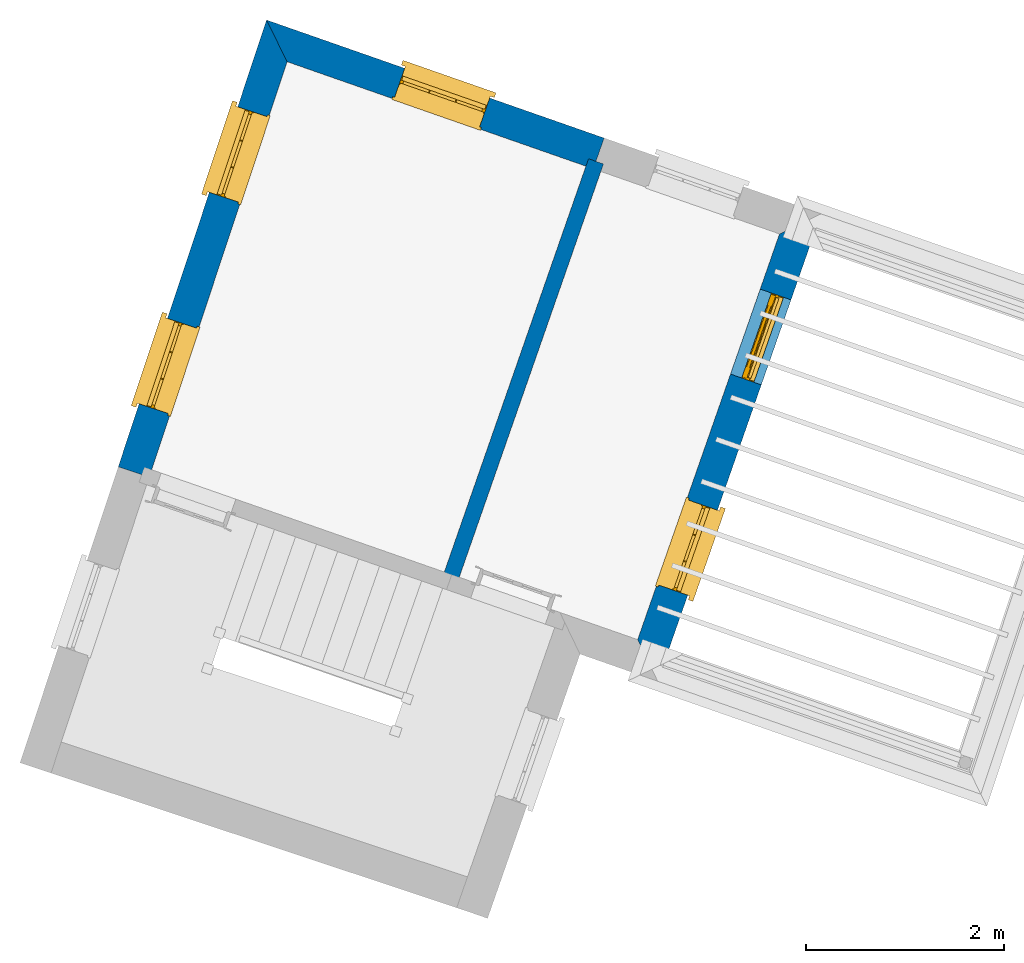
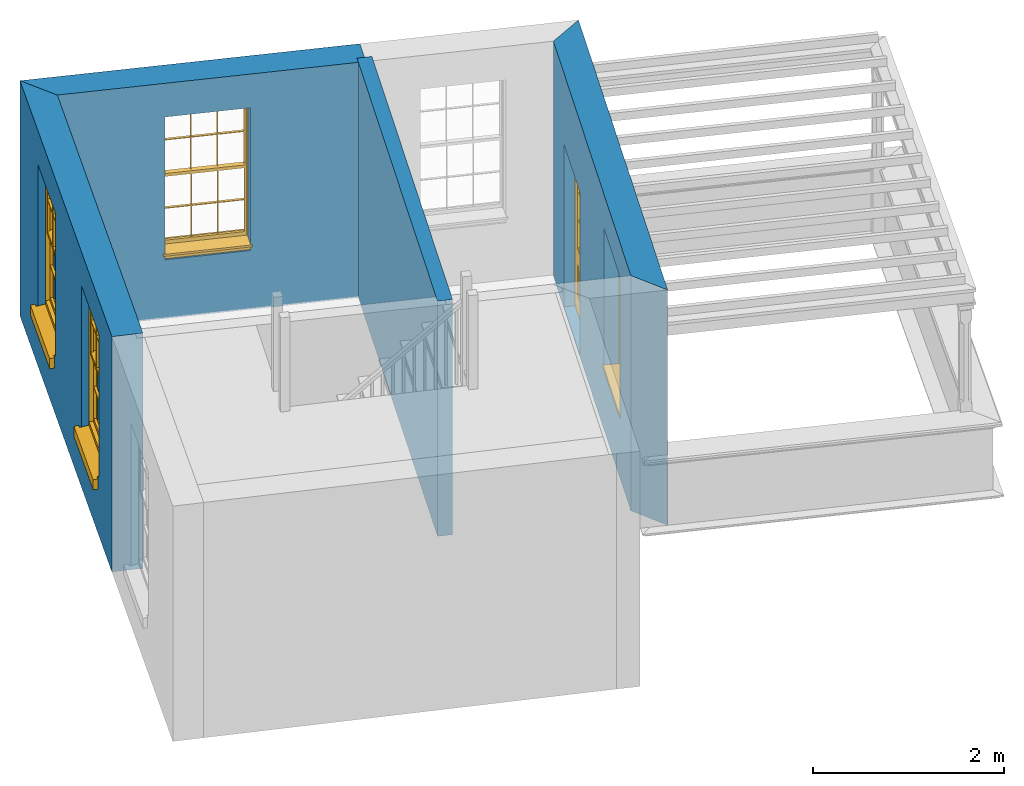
# One storey, part 4 of 6: 4 walls, 4 windows, 1 door, 5 openings.
"""IFC4 building model written with IfcOpenShell, lengths in metres."""

from ifc_helpers import new_model, si_unit, frame, origin, origin_with_axes, place, context, subcontext, project, spatial, polyline, outline, extrude, faceted_brep, source, transform, mapped, material, layer, layer_set, layer_usage, type_object, type_shapes, element, fill, save


model = new_model("IFC4")

# Units and contexts
model_context = context("Model", 3, world=origin_with_axes())
body_context = subcontext(model_context, "Body", "Model", "MODEL_VIEW")
ifc_project = project(units=[si_unit("PLANEANGLEUNIT", "RADIAN"), si_unit("MASSUNIT", "GRAM", prefix="KILO"), si_unit("FORCEUNIT", "NEWTON", prefix="KILO"), si_unit("LENGTHUNIT", "METRE"), si_unit("AREAUNIT", "SQUARE_METRE"), si_unit("VOLUMEUNIT", "CUBIC_METRE")], contexts=[model_context, model_context])

# Sites, building, storey
site_1_placement = place(None, origin_with_axes())
site_1 = spatial("IfcSite", under=ifc_project, at=site_1_placement, Name="Tamar")
site_2_placement = place(site_1_placement, origin_with_axes())
site_2 = spatial("IfcSite", under=site_1, at=site_2_placement, Name="Site plot-15", CompositionType="ELEMENT")
building_placement = place(None, origin_with_axes())
building = spatial("IfcBuilding", under=site_2, at=building_placement, Name="Building plot-15", CompositionType="ELEMENT")
storey_placement = place(None, frame((0.0, 0.0, 29.95), z_axis=(0.0, 0.0, 1.0), x_axis=(1.0, 0.0, 0.0)))
storey = spatial("IfcBuildingStorey", under=building, at=storey_placement, Name="plot-15 1", CompositionType="ELEMENT", Elevation=29.95)

# Wall, openings, door, window
ifc_material_1 = material(Name="Masonry")
ifc_layer_1 = layer(ifc_material_1, 0.33, ventilated=False)
ifc_layer_set_1 = layer_set([ifc_layer_1], Name="exterior_0.08_0.25")
ifc_layer_usage_1 = layer_usage(ifc_layer_set_1, "AXIS2", "POSITIVE", -0.25)
wall_type_1 = type_object("IfcWallType", Name="exterior_0.08_0.25", PredefinedType="SOLIDWALL", material=ifc_layer_set_1)
wall_1_placement = place(storey_placement, frame((262.294440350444, 304.974868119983, 0.0), z_axis=(0.0, 0.0, 1.0), x_axis=(0.330001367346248, 0.943980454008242, 0.0)))
wall_1 = element("IfcWall", 1, at=wall_1_placement, inside=storey, type_object=wall_type_1, material=ifc_layer_usage_1, Name="exterior", context=body_context, shape_type="SweptSolid", body=[
    extrude(outline(polyline([(0.07999999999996, 0.0799999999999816), (-0.249999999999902, -0.249999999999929), (4.75413660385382, -0.249999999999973), (4.42413660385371, 0.0799999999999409), (0.07999999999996, 0.0799999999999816)])), origin_with_axes(), (0.0, 0.0, 1.0), 3.0),
])
opening_1_placement = place(wall_1_placement, frame((0.671034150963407, 0.0, 0.75)))
opening_1 = element("IfcOpeningElement", 2, at=opening_1_placement, cuts=wall_1, Name="My Opening", ObjectType="Opening", context=body_context, shape_type="SweptSolid", body=[
    extrude(outline(polyline([(0.0, -0.269999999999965), (0.910000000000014, -0.26999999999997), (0.91000000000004, 1.10000000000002), (2.67563748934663e-14, 1.10000000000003), (0.0, -0.269999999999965)])), origin_with_axes(), (0.0, 0.0, 1.0), 1.82),
])
opening_2_placement = place(wall_1_placement, frame((2.92310245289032, 0.0, 0.0199999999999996)))
opening_2 = element("IfcOpeningElement", 3, at=opening_2_placement, cuts=wall_1, Name="My Opening", ObjectType="Opening", context=body_context, shape_type="SweptSolid", body=[
    extrude(outline(polyline([(0.0, -0.269999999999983), (0.910000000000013, -0.269999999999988), (0.91000000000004, 1.10000000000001), (2.66453525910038e-14, 1.10000000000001), (0.0, -0.269999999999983)])), origin_with_axes(), (0.0, 0.0, 1.0), 2.08),
])
door_type = type_object("IfcDoorType", Name="door_panelled", OperationType="SINGLE_SWING_LEFT", PredefinedType="NOTDEFINED")
shared_shape_1 = source(origin(), body_context, "Body", "Brep", [
    faceted_brep([(0.545, 0.195, 0.265), (0.745, 0.195, 0.265), (0.745, 0.2, 0.265), (0.545, 0.2, 0.265), (0.745, 0.2, 0.58), (0.545, 0.2, 0.58), (0.545, 0.195, 0.58), (0.515, 0.19, 0.235), (0.775, 0.19, 0.235), (0.745, 0.195, 0.58), (0.515, 0.19, 0.61), (0.515, 0.185, 0.235), (0.775, 0.185, 0.235), (0.775, 0.19, 0.61), (0.515, 0.185, 0.61), (0.785, 0.185, 0.225), (0.505, 0.185, 0.225), (0.775, 0.185, 0.61), (0.505, 0.185, 0.62), (0.785, 0.185, 0.62), (0.505, 0.18, 0.225), (0.785, 0.18, 0.225), (0.505, 0.18, 0.62), (0.785, 0.18, 0.62), (0.883, 0.18, 0.075), (0.898, 0.18, 0.075), (0.405, 0.18, 0.62), (0.405, 0.18, 0.225), (0.027, 0.18, 0.075), (0.785, 0.18, 0.82), (0.125, 0.18, 0.82), (0.405, 0.185, 0.62), (0.405, 0.185, 0.225), (0.898, 0.18, 2.068), (0.027, 0.17, 0.075), (0.883, 0.17, 0.075), (0.125, 0.18, 0.225), (0.012, 0.18, 0.075), (0.785, 0.19, 0.82), (0.125, 0.19, 0.82), (0.125, 0.18, 0.62), (0.125, 0.185, 0.62), (0.395, 0.185, 0.61), (0.395, 0.185, 0.235), (0.125, 0.185, 0.225), (0.785, 0.18, 1.895), (0.027, 0.14, 0.045), (0.883, 0.14, 0.045), (0.558333, 0.19, 0.83), (0.351667, 0.19, 0.83), (0.125, 0.18, 1.895), (0.125, 0.19, 1.895), (0.785, 0.19, 1.895), (0.012, 0.18, 2.068), (0.135, 0.185, 0.61), (0.395, 0.19, 0.61), (0.395, 0.19, 0.235), (0.135, 0.185, 0.235), (0.027, 0.14, 0.027), (0.883, 0.14, 0.027), (0.568333, 0.19, 0.83), (0.558333, 0.22, 0.83), (0.351667, 0.22, 0.83), (0.341667, 0.19, 0.83), (0.135, 0.19, 1.185), (0.135, 0.19, 1.53), (0.775, 0.19, 1.53), (0.775, 0.19, 1.185), (0.135, 0.19, 0.61), (0.365, 0.195, 0.58), (0.365, 0.195, 0.265), (0.135, 0.19, 0.235), (0.568333, 0.19, 1.175), (0.558333, 0.19, 1.175), (0.775, 0.19, 0.83), (0.558333, 0.22, 1.175), (0.785, 0.22, 0.82), (0.125, 0.22, 0.82), (0.351667, 0.22, 1.175), (0.351667, 0.19, 1.175), (0.341667, 0.19, 1.175), (0.135, 0.19, 0.83), (0.135, 0.19, 1.175), (0.135, 0.22, 1.185), (0.135, 0.22, 1.53), (0.135, 0.19, 1.54), (0.351667, 0.19, 1.885), (0.558333, 0.19, 1.885), (0.775, 0.22, 1.53), (0.775, 0.22, 1.185), (0.775, 0.19, 1.175), (0.775, 0.19, 1.54), (0.165, 0.195, 0.58), (0.365, 0.2, 0.58), (0.365, 0.2, 0.265), (0.165, 0.195, 0.265), (0.568333, 0.22, 0.83), (0.568333, 0.22, 1.175), (0.568333, 0.19, 1.185), (0.558333, 0.19, 1.185), (0.775, 0.22, 0.83), (0.785, 0.23, 0.82), (0.125, 0.23, 0.82), (0.341667, 0.22, 0.83), (0.341667, 0.22, 1.175), (0.351667, 0.19, 1.185), (0.341667, 0.19, 1.185), (0.135, 0.22, 0.83), (0.341667, 0.22, 1.185), (0.125, 0.22, 1.895), (0.341667, 0.22, 1.53), (0.341667, 0.19, 1.53), (0.135, 0.19, 1.885), (0.341667, 0.19, 1.54), (0.341667, 0.19, 1.885), (0.558333, 0.22, 1.885), (0.351667, 0.22, 1.885), (0.568333, 0.19, 1.885), (0.785, 0.22, 1.895), (0.568333, 0.22, 1.185), (0.568333, 0.19, 1.53), (0.568333, 0.22, 1.53), (0.568333, 0.19, 1.54), (0.775, 0.19, 1.885), (0.165, 0.2, 0.58), (0.165, 0.2, 0.265), (0.775, 0.22, 1.175), (0.558333, 0.19, 1.53), (0.351667, 0.22, 1.185), (0.558333, 0.22, 1.185), (0.505, 0.23, 0.62), (0.405, 0.23, 0.62), (0.125, 0.23, 1.895), (0.785, 0.23, 1.895), (0.351667, 0.19, 1.53), (0.135, 0.22, 1.175), (0.135, 0.22, 1.54), (0.341667, 0.22, 1.54), (0.135, 0.22, 1.885), (0.351667, 0.19, 1.54), (0.558333, 0.22, 1.54), (0.558333, 0.19, 1.54), (0.351667, 0.22, 1.54), (0.775, 0.22, 1.54), (0.568333, 0.22, 1.54), (0.775, 0.22, 1.885), (0.558333, 0.22, 1.53), (0.405, 0.23, 0.225), (0.505, 0.23, 0.225), (0.125, 0.23, 0.62), (0.785, 0.23, 0.62), (0.012, 0.23, 2.068), (0.898, 0.23, 2.068), (0.351667, 0.22, 1.53), (0.341667, 0.22, 1.885), (0.568333, 0.22, 1.885), (0.405, 0.225, 0.225), (0.405, 0.225, 0.62), (0.505, 0.225, 0.62), (0.505, 0.225, 0.225), (0.898, 0.23, 0.027), (0.012, 0.23, 0.027), (0.125, 0.225, 0.62), (0.785, 0.225, 0.62), (0.395, 0.225, 0.235), (0.395, 0.225, 0.61), (0.125, 0.23, 0.225), (0.125, 0.225, 0.225), (0.515, 0.225, 0.61), (0.515, 0.225, 0.235), (0.785, 0.23, 0.225), (0.785, 0.225, 0.225), (0.135, 0.225, 0.61), (0.775, 0.225, 0.61), (0.135, 0.225, 0.235), (0.395, 0.22, 0.235), (0.395, 0.22, 0.61), (0.515, 0.22, 0.61), (0.515, 0.22, 0.235), (0.775, 0.225, 0.235), (0.135, 0.22, 0.61), (0.775, 0.22, 0.61), (0.135, 0.22, 0.235), (0.365, 0.215, 0.265), (0.365, 0.215, 0.58), (0.545, 0.215, 0.58), (0.545, 0.215, 0.265), (0.775, 0.22, 0.235), (0.165, 0.215, 0.58), (0.745, 0.215, 0.58), (0.165, 0.215, 0.265), (0.365, 0.21, 0.58), (0.365, 0.21, 0.265), (0.545, 0.21, 0.58), (0.545, 0.21, 0.265), (0.745, 0.215, 0.265), (0.165, 0.21, 0.58), (0.745, 0.21, 0.58), (0.165, 0.21, 0.265), (0.745, 0.21, 0.265), (0.885, 0.178, 0.025), (0.025, 0.178, 0.025), (0.025, 0.15, 0.025), (0.885, 0.15, 0.025), (0.9, 0.23, 0.025), (0.01, 0.23, 0.025), (0.9, 0.178, 0.025), (0.91, 0.23, 0.0), (0.0, 0.23, 0.0), (0.01, 0.178, 0.025), (0.9, 0.178, 2.07), (0.9, 0.23, 2.07), (0.885, 0.178, 2.055), (0.91, 0.23, 2.08), (0.01, 0.23, 2.07), (0.0, 0.23, 2.08), (0.01, 0.178, 2.07), (0.025, 0.178, 2.055), (0.0, 0.1, 2.08), (0.91, 0.1, 2.08), (0.01, 0.1, 2.07), (0.9, 0.1, 2.07), (0.01, 0.15, 2.07), (0.9, 0.15, 2.07), (0.0, 0.1, 0.0), (0.91, 0.1, 0.0), (0.01, 0.1, 0.025), (0.9, 0.1, 0.025), (0.01, 0.15, 0.025), (0.025, 0.15, 2.055), (0.9, 0.15, 0.025), (0.885, 0.15, 2.055), (0.898, 0.18, 0.027), (0.012, 0.18, 0.027), (0.883, 0.18, 0.027), (0.027, 0.18, 0.027)], [[[0, 1, 2, 3]], [[2, 4, 5, 3]], [[0, 3, 5, 6]], [[1, 0, 7, 8]], [[9, 4, 2, 1]], [[9, 6, 5, 4]], [[0, 6, 10, 7]], [[8, 7, 11, 12]], [[8, 13, 9, 1]], [[13, 10, 6, 9]], [[7, 10, 14, 11]], [[15, 12, 11, 16]], [[12, 17, 13, 8]], [[17, 14, 10, 13]], [[18, 16, 11, 14]], [[15, 19, 17, 12]], [[15, 16, 20, 21]], [[14, 17, 19, 18]], [[16, 18, 22, 20]], [[21, 23, 19, 15]], [[24, 25, 21, 20]], [[23, 22, 18, 19]], [[20, 22, 26, 27]], [[23, 21, 25]], [[28, 24, 20, 27]], [[22, 23, 29]], [[29, 30, 26, 22]], [[27, 26, 31, 32]], [[23, 25, 33, 29]], [[34, 35, 24, 28]], [[28, 27, 36, 37]], [[38, 39, 30, 29]], [[26, 30, 40]], [[26, 40, 41, 31]], [[42, 43, 32, 31]], [[32, 44, 36, 27]], [[33, 45, 29]], [[46, 47, 35, 34]], [[36, 40, 37]], [[39, 38, 48, 49]], [[50, 30, 39, 51]], [[29, 45, 52, 38]], [[53, 37, 40, 30]], [[44, 41, 40, 36]], [[31, 41, 54, 42]], [[43, 42, 55, 56]], [[57, 44, 32, 43]], [[50, 45, 33, 53]], [[47, 46, 58, 59]], [[60, 48, 38]], [[49, 48, 61, 62]], [[49, 63, 39]], [[50, 53, 30]], [[51, 39, 64, 65]], [[45, 50, 51, 52]], [[66, 67, 38, 52]], [[57, 54, 41, 44]], [[42, 54, 68, 55]], [[56, 55, 69, 70]], [[56, 71, 57, 43]], [[60, 72, 73, 48]], [[60, 38, 74]], [[48, 73, 75, 61]], [[76, 77, 62, 61]], [[62, 78, 79, 49]], [[49, 79, 80, 63]], [[63, 81, 39]], [[82, 64, 39]], [[65, 64, 83, 84]], [[85, 51, 65]], [[52, 51, 86, 87]], [[88, 89, 67, 66]], [[90, 38, 67]], [[91, 66, 52]], [[71, 68, 54, 57]], [[55, 68, 92, 69]], [[69, 93, 94, 70]], [[70, 95, 71, 56]], [[96, 97, 72, 60]], [[73, 72, 98, 99]], [[74, 38, 90]], [[100, 96, 60, 74]], [[75, 73, 79, 78]], [[61, 75, 97, 96]], [[101, 102, 77, 76]], [[77, 103, 62]], [[96, 76, 61]], [[103, 104, 78, 62]], [[80, 79, 105, 106]], [[63, 80, 104, 103]], [[81, 63, 103, 107]], [[81, 82, 39]], [[106, 64, 82, 80]], [[106, 108, 83, 64]], [[84, 83, 77, 109]], [[110, 111, 65, 84]], [[112, 51, 85]], [[113, 85, 65, 111]], [[114, 86, 51]], [[115, 87, 86, 116]], [[117, 52, 87]], [[118, 76, 89, 88]], [[119, 98, 67, 89]], [[120, 121, 88, 66]], [[67, 98, 72, 90]], [[91, 122, 120, 66]], [[91, 52, 123]], [[95, 92, 68, 71]], [[69, 92, 124, 93]], [[94, 93, 124, 125]], [[94, 125, 95, 70]], [[72, 97, 126, 90]], [[127, 99, 98, 120]], [[99, 105, 79, 73]], [[74, 90, 126, 100]], [[96, 100, 76]], [[128, 129, 75, 78]], [[97, 75, 129, 119]], [[130, 131, 102, 101]], [[109, 77, 102, 132]], [[133, 101, 76, 118]], [[77, 107, 103]], [[78, 104, 108, 128]], [[111, 106, 105, 134]], [[104, 80, 82, 135]], [[107, 135, 82, 81]], [[110, 108, 106, 111]], [[104, 135, 83, 108]], [[83, 135, 77]], [[136, 84, 109]], [[110, 84, 136, 137]], [[114, 51, 112]], [[85, 136, 138, 112]], [[113, 137, 136, 85]], [[111, 134, 139, 113]], [[86, 114, 113, 139]], [[140, 141, 87, 115]], [[139, 142, 116, 86]], [[109, 118, 115, 116]], [[117, 123, 52]], [[117, 87, 141, 122]], [[126, 89, 76]], [[143, 118, 88]], [[120, 98, 119, 121]], [[119, 89, 126, 97]], [[144, 143, 88, 121]], [[144, 122, 91, 143]], [[127, 120, 122, 141]], [[143, 91, 123, 145]], [[124, 92, 95, 125]], [[146, 129, 99, 127]], [[99, 129, 128, 105]], [[100, 126, 76]], [[121, 119, 129, 146]], [[147, 131, 130, 148]], [[131, 149, 102]], [[130, 101, 150]], [[102, 151, 132]], [[118, 109, 132, 133]], [[101, 133, 152]], [[107, 77, 135]], [[153, 128, 108, 110]], [[134, 105, 128, 153]], [[109, 138, 136]], [[153, 110, 137, 142]], [[154, 114, 112, 138]], [[137, 113, 114, 154]], [[141, 139, 134, 127]], [[141, 140, 142, 139]], [[144, 140, 115, 155]], [[142, 137, 154, 116]], [[155, 115, 118]], [[116, 154, 109]], [[117, 155, 145, 123]], [[122, 144, 155, 117]], [[143, 145, 118]], [[121, 146, 140, 144]], [[146, 127, 134, 153]], [[156, 157, 131, 147]], [[148, 130, 158, 159]], [[148, 160, 161, 147]], [[157, 162, 149, 131]], [[161, 151, 102, 149]], [[101, 152, 160, 150]], [[163, 158, 130, 150]], [[151, 152, 133, 132]], [[154, 138, 109]], [[142, 140, 146, 153]], [[145, 155, 118]], [[157, 156, 164, 165]], [[147, 166, 167, 156]], [[168, 169, 159, 158]], [[170, 148, 159, 171]], [[148, 170, 160]], [[166, 147, 161]], [[172, 162, 157, 165]], [[166, 149, 162, 167]], [[166, 161, 149]], [[150, 160, 170]], [[163, 173, 168, 158]], [[171, 163, 150, 170]], [[174, 164, 156, 167]], [[175, 176, 165, 164]], [[169, 168, 177, 178]], [[171, 159, 169, 179]], [[167, 162, 172, 174]], [[176, 180, 172, 165]], [[179, 173, 163, 171]], [[181, 177, 168, 173]], [[164, 174, 182, 175]], [[183, 184, 176, 175]], [[178, 177, 185, 186]], [[179, 169, 178, 187]], [[174, 172, 180, 182]], [[184, 188, 180, 176]], [[187, 181, 173, 179]], [[189, 185, 177, 181]], [[175, 182, 190, 183]], [[191, 184, 183, 192]], [[185, 193, 194, 186]], [[187, 178, 186, 195]], [[182, 180, 188, 190]], [[191, 196, 188, 184]], [[195, 189, 181, 187]], [[197, 193, 185, 189]], [[183, 190, 198, 192]], [[198, 196, 191, 192]], [[194, 193, 197, 199]], [[195, 186, 194, 199]], [[188, 196, 198, 190]], [[197, 189, 195, 199]], [[200, 201, 202, 203]], [[201, 200, 204, 205]], [[206, 204, 200]], [[204, 207, 208, 205]], [[209, 201, 205]], [[210, 211, 204, 206]], [[206, 200, 212, 210]], [[211, 213, 207, 204]], [[214, 205, 208, 215]], [[216, 217, 201, 209]], [[205, 214, 216, 209]], [[216, 214, 211, 210]], [[210, 212, 217, 216]], [[214, 215, 213, 211]], [[218, 219, 213, 215]], [[219, 218, 220, 221]], [[221, 220, 222, 223]], [[215, 208, 224, 218]], [[225, 224, 208, 207]], [[224, 226, 220, 218]], [[224, 225, 227, 226]], [[219, 225, 207, 213]], [[228, 222, 220, 226]], [[219, 221, 227, 225]], [[226, 227, 203, 202]], [[202, 229, 222, 228]], [[228, 226, 202]], [[227, 221, 223, 230]], [[230, 203, 227]], [[217, 229, 202, 201]], [[231, 223, 222, 229]], [[230, 223, 231, 203]], [[231, 229, 217, 212]], [[212, 200, 203, 231]], [[33, 152, 151, 53]], [[25, 160, 152, 33]], [[161, 37, 53, 151]], [[232, 160, 25]], [[161, 233, 37]], [[160, 232, 234]], [[24, 234, 232, 25]], [[233, 161, 235]], [[37, 233, 235, 28]], [[161, 160, 234, 235]], [[35, 47, 234, 24]], [[28, 235, 46, 34]], [[58, 235, 234, 59]], [[59, 234, 47]], [[58, 46, 235]]]),
])
type_shapes(door_type, [shared_shape_1])
door_placement = place(storey_placement, frame((263.513942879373, 307.645119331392, 0.0199999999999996), z_axis=(0.0, 0.0, 1.0), x_axis=(0.300301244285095, 0.859022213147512, 0.0)))
door = element("IfcDoor", 4, at=door_placement, inside=storey, type_object=door_type, Name="bedroom outside door", OverallHeight=2.08, OverallWidth=0.91, context=body_context, shape_type="MappedRepresentation", body=[
    mapped(shared_shape_1, transform((0.0, 0.0, 0.0), scale=1.0)),
])
fill(opening_2, door)
window_type = type_object("IfcWindowType", Name="sash_big", PartitioningType="DOUBLE_PANEL_HORIZONTAL", PredefinedType="NOTDEFINED")
shared_shape_2 = source(origin(), body_context, "Body", "Brep", [
    faceted_brep([(0.033125, 0.145, 0.975209), (0.01, 0.145, 0.975209), (0.033125, 0.145, 1.376042), (0.876875, 0.145, 0.975209), (0.876875, 0.145, 1.376042), (0.9, 0.145, 0.975209), (0.876875, 0.145, 1.386042), (0.876875, 0.145, 1.786875), (0.9, 0.145, 1.81), (0.033125, 0.145, 1.786875), (0.033125, 0.145, 1.386042), (0.01, 0.145, 1.81), (0.876875, 0.115, 1.376042), (0.876875, 0.115, 0.975209), (0.9, 0.115, 0.937083), (0.033125, 0.115, 1.786875), (0.01, 0.115, 1.81), (0.033125, 0.115, 1.386042), (0.01, 0.115, 0.937083), (0.033125, 0.115, 0.975209), (0.033125, 0.115, 1.376042), (0.876875, 0.115, 1.786875), (0.876875, 0.115, 1.386042), (0.9, 0.115, 1.81), (0.033125, 0.145, 0.937083), (0.01, 0.145, 0.937083), (0.033125, 0.145, 0.53625), (0.876875, 0.145, 0.937083), (0.876875, 0.145, 0.53625), (0.9, 0.145, 0.937083), (0.876875, 0.145, 0.52625), (0.876875, 0.145, 0.125417), (0.9, 0.145, 0.077167), (0.033125, 0.145, 0.125417), (0.033125, 0.145, 0.52625), (0.01, 0.145, 0.077167), (-0.0425, 0.0, 0.01), (-0.0425, -0.05, 0.001667), (0.0, 0.0, 0.01), (0.9525, 0.0, 0.01), (0.91, 0.0, 0.01), (0.9525, -0.05, 0.001667), (-0.02, 0.33, 0.077167), (0.0, 0.33, 0.077167), (-0.02, 0.36, 0.077167), (0.0, 0.19, 0.077167), (0.01, 0.19, 0.077167), (0.91, 0.19, 0.077167), (0.91, 0.33, 0.077167), (0.9, 0.19, 0.077167), (0.93, 0.33, 0.077167), (0.93, 0.36, 0.077167), (0.01, 0.175, 0.975209), (0.9, 0.175, 0.975209), (0.876875, 0.175, 0.125417), (0.876875, 0.175, 0.52625), (0.9, 0.175, 0.077167), (0.876875, 0.175, 0.53625), (0.876875, 0.175, 0.937083), (0.033125, 0.175, 0.125417), (0.01, 0.175, 0.077167), (0.033125, 0.175, 0.52625), (0.033125, 0.175, 0.937083), (0.033125, 0.175, 0.53625), (-0.02, 0.33, 0.052167), (-0.02, 0.36, 0.052167), (0.93, 0.36, 0.052167), (0.93, 0.33, 0.052167), (0.91, 0.33, 0.052167), (0.0, 0.33, 0.052167), (0.91, 0.1, 0.026667), (0.0, 0.1, 0.026667), (-0.0425, -0.05, -0.123333), (0.9525, -0.05, -0.123333), (-0.0425, 0.0, -0.123333), (0.9525, 0.0, -0.123333), (0.01, 0.19, 1.81), (0.9, 0.19, 1.81), (0.0, 0.19, 1.82), (0.91, 0.19, 1.82), (0.01, 0.1, 0.077167), (0.9, 0.1, 0.077167), (0.592292, 0.145, 0.125417), (0.592292, 0.175, 0.125417), (0.317708, 0.175, 0.125417), (0.317708, 0.145, 0.125417), (0.592292, 0.145, 0.53625), (0.317708, 0.145, 0.53625), (0.317708, 0.145, 0.52625), (0.592292, 0.145, 0.52625), (0.592292, 0.175, 0.53625), (0.317708, 0.175, 0.53625), (0.592292, 0.115, 1.386042), (0.592292, 0.145, 1.386042), (0.317708, 0.145, 1.386042), (0.317708, 0.115, 1.386042), (0.317708, 0.115, 1.376042), (0.592292, 0.115, 1.376042), (0.317708, 0.145, 1.376042), (0.592292, 0.145, 1.376042), (0.602292, 0.115, 1.376042), (0.592292, 0.115, 0.975209), (0.602292, 0.115, 0.975209), (0.602292, 0.145, 0.975209), (0.592292, 0.145, 0.975209), (0.602292, 0.145, 1.376042), (0.602292, 0.175, 0.53625), (0.602292, 0.145, 0.53625), (0.317708, 0.175, 0.52625), (0.307708, 0.175, 0.125417), (0.307708, 0.175, 0.52625), (0.602292, 0.175, 0.52625), (0.602292, 0.175, 0.125417), (0.592292, 0.175, 0.52625), (0.307708, 0.175, 0.53625), (0.317708, 0.175, 0.937083), (0.307708, 0.175, 0.937083), (0.602292, 0.175, 0.937083), (0.592292, 0.175, 0.937083), (0.307708, 0.145, 0.52625), (0.307708, 0.145, 0.125417), (0.307708, 0.145, 0.53625), (0.307708, 0.145, 0.937083), (0.592292, 0.145, 0.937083), (0.317708, 0.145, 0.937083), (0.602292, 0.145, 0.937083), (0.602292, 0.145, 0.52625), (0.602292, 0.145, 0.125417), (0.307708, 0.115, 1.386042), (0.307708, 0.115, 1.376042), (0.307708, 0.115, 0.975209), (0.317708, 0.115, 0.975209), (0.317708, 0.115, 1.786875), (0.307708, 0.115, 1.786875), (0.602292, 0.115, 1.786875), (0.592292, 0.115, 1.786875), (0.602292, 0.115, 1.386042), (0.602292, 0.145, 1.386042), (0.307708, 0.145, 1.386042), (0.307708, 0.145, 1.786875), (0.317708, 0.145, 1.786875), (0.592292, 0.145, 1.786875), (0.602292, 0.145, 1.786875), (0.307708, 0.145, 1.376042), (0.317708, 0.145, 0.975209), (0.307708, 0.145, 0.975209), (0.91, 0.1, 1.82), (0.9, 0.1, 1.81), (0.01, 0.1, 1.81), (0.0, 0.1, 1.82), (0.91, 0.0, 0.0), (0.0, 0.0, 0.0), (0.91, 0.33, 0.0), (0.0, 0.33, 0.0)], [[[0, 1, 2]], [[3, 4, 5]], [[6, 7, 8]], [[9, 10, 11]], [[12, 13, 14]], [[15, 16, 17]], [[18, 19, 20]], [[21, 22, 23]], [[24, 25, 26]], [[27, 28, 29]], [[30, 31, 32]], [[33, 34, 35]], [[14, 27, 29]], [[25, 24, 18]], [[36, 37, 38]], [[39, 40, 41]], [[42, 43, 44]], [[45, 46, 43]], [[47, 48, 49]], [[50, 51, 48]], [[1, 0, 52]], [[5, 53, 3]], [[54, 55, 56]], [[57, 58, 53]], [[59, 60, 61]], [[62, 63, 52]], [[48, 43, 46, 49]], [[51, 44, 43, 48]], [[64, 42, 44, 65]], [[65, 44, 51, 66]], [[66, 51, 50, 67]], [[65, 66, 68, 69]], [[60, 56, 49, 46]], [[70, 71, 38, 40]], [[37, 41, 40, 38]], [[37, 72, 73, 41]], [[74, 75, 73, 72]], [[8, 11, 76, 77]], [[76, 78, 79, 77]], [[32, 35, 80, 81]], [[81, 80, 71, 70]], [[82, 83, 84, 85]], [[86, 87, 88, 89]], [[86, 90, 91, 87]], [[92, 93, 94, 95]], [[92, 95, 96, 97]], [[96, 98, 99, 97]], [[100, 97, 101, 102]], [[103, 104, 99, 105]], [[97, 99, 104, 101]], [[102, 103, 105, 100]], [[28, 57, 106, 107]], [[108, 84, 109, 110]], [[111, 112, 83, 113]], [[114, 110, 61, 63]], [[90, 113, 108, 91]], [[115, 91, 114, 116]], [[117, 106, 90, 118]], [[111, 106, 57, 55]], [[119, 110, 109, 120]], [[34, 61, 110, 119]], [[89, 113, 83, 82]], [[88, 108, 113, 89]], [[85, 84, 108, 88]], [[121, 114, 63, 26]], [[122, 116, 114, 121]], [[123, 118, 90, 86]], [[87, 91, 115, 124]], [[107, 106, 117, 125]], [[126, 111, 55, 30]], [[127, 112, 111, 126]], [[126, 30, 28, 107]], [[88, 119, 120, 85]], [[126, 89, 82, 127]], [[125, 123, 86, 107]], [[121, 26, 34, 119]], [[124, 122, 121, 87]], [[128, 17, 20, 129]], [[96, 129, 130, 131]], [[132, 133, 128, 95]], [[134, 135, 92, 136]], [[100, 12, 22, 136]], [[137, 6, 4, 105]], [[94, 138, 139, 140]], [[137, 93, 141, 142]], [[99, 98, 94, 93]], [[143, 2, 10, 138]], [[144, 145, 143, 98]], [[129, 143, 145, 130]], [[20, 2, 143, 129]], [[131, 144, 98, 96]], [[128, 138, 10, 17]], [[133, 139, 138, 128]], [[135, 141, 93, 92]], [[95, 94, 140, 132]], [[22, 6, 137, 136]], [[136, 137, 142, 134]], [[100, 105, 4, 12]], [[107, 86, 89, 126]], [[106, 111, 113, 90]], [[91, 108, 110, 114]], [[87, 121, 119, 88]], [[97, 100, 136, 92]], [[129, 96, 95, 128]], [[98, 143, 138, 94]], [[105, 99, 93, 137]], [[131, 101, 104, 144]], [[124, 115, 118, 123]], [[132, 140, 141, 135]], [[120, 109, 59, 33]], [[15, 9, 139, 133]], [[134, 142, 7, 21]], [[31, 54, 112, 127]], [[36, 74, 72, 37]], [[39, 41, 73, 75]], [[18, 14, 101, 131]], [[23, 16, 132, 135]], [[83, 56, 60, 84]], [[52, 53, 118, 115]], [[53, 52, 144, 104]], [[11, 8, 141, 140]], [[14, 18, 124, 123]], [[2, 1, 11, 10]], [[8, 5, 4, 6]], [[57, 53, 56, 55]], [[60, 52, 63, 61]], [[26, 25, 35, 34]], [[32, 29, 28, 30]], [[14, 23, 22, 12]], [[18, 20, 17, 16]], [[19, 0, 2, 20]], [[17, 10, 9, 15]], [[12, 4, 3, 13]], [[21, 7, 6, 22]], [[27, 58, 57, 28]], [[30, 55, 54, 31]], [[33, 59, 61, 34]], [[26, 63, 62, 24]], [[5, 8, 77, 53]], [[76, 11, 1, 52]], [[46, 45, 78, 76]], [[49, 77, 79, 47]], [[70, 146, 147, 81]], [[71, 80, 148, 149]], [[19, 130, 145, 0]], [[102, 13, 3, 103]], [[116, 122, 24, 62]], [[29, 32, 81, 14]], [[80, 35, 25, 18]], [[60, 46, 76, 52]], [[77, 49, 56, 53]], [[23, 14, 81, 147]], [[16, 148, 80, 18]], [[35, 85, 120]], [[120, 33, 35]], [[127, 82, 32]], [[32, 31, 127]], [[32, 82, 85, 35]], [[102, 101, 14]], [[14, 13, 102]], [[18, 131, 130]], [[130, 19, 18]], [[134, 21, 23]], [[23, 135, 134]], [[16, 15, 133]], [[133, 132, 16]], [[11, 140, 139]], [[139, 9, 11]], [[142, 141, 8]], [[8, 7, 142]], [[23, 147, 148, 16]], [[146, 149, 148, 147]], [[52, 115, 116]], [[116, 62, 52]], [[118, 53, 117]], [[58, 117, 53]], [[27, 125, 117, 58]], [[56, 83, 112]], [[112, 54, 56]], [[109, 84, 60]], [[60, 59, 109]], [[125, 27, 14]], [[14, 123, 125]], [[122, 124, 18]], [[18, 24, 122]], [[145, 144, 52]], [[52, 0, 145]], [[103, 3, 53]], [[53, 104, 103]], [[79, 78, 149, 146]], [[78, 45, 71, 149]], [[146, 70, 47, 79]], [[150, 75, 74, 151]], [[68, 66, 67]], [[48, 68, 67, 50]], [[69, 64, 65]], [[42, 64, 69, 43]], [[69, 68, 152, 153]], [[70, 68, 48, 47]], [[150, 152, 68, 70]], [[43, 69, 71, 45]], [[69, 153, 151, 71]], [[152, 150, 151, 153]], [[38, 151, 74, 36]], [[71, 151, 38]], [[39, 75, 150, 40]], [[40, 150, 70]]]),
])
type_shapes(window_type, [shared_shape_2])
window_1_placement = place(storey_placement, frame((262.77075726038, 305.519210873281, 0.75), z_axis=(0.0, 0.0, 1.0), x_axis=(0.300301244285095, 0.859022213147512, 0.0)))
window_1 = element("IfcWindow", 5, at=window_1_placement, inside=storey, type_object=window_type, Name="bedroom outside window", OverallHeight=1.82, OverallWidth=0.91, context=body_context, shape_type="MappedRepresentation", body=[
    mapped(shared_shape_2, transform((0.0, 0.0, 0.0), scale=1.0)),
])
fill(opening_1, window_1)

# Wall, opening, window
wall_2_placement = place(storey_placement, frame((261.824227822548, 309.910677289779, 0.0), z_axis=(0.0, 0.0, 1.0), x_axis=(-0.943980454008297, 0.330001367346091, 0.0)))
wall_2 = element("IfcWall", 6, at=wall_2_placement, inside=storey, type_object=wall_type_1, material=ifc_layer_usage_1, Name="exterior", context=body_context, shape_type="SweptSolid", body=[
    extrude(outline(polyline([(-1.62310029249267e-14, 0.0800000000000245), (6.31869981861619e-14, -0.250000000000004), (3.61423887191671, -0.25000000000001), (3.27898069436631, 0.0800000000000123), (-1.62310029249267e-14, 0.0800000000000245)])), origin_with_axes(), (0.0, 0.0, 1.0), 3.0),
])
opening_3_placement = place(wall_2_placement, frame((1.22512770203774, 0.0, 0.75)))
opening_3 = element("IfcOpeningElement", 7, at=opening_3_placement, cuts=wall_2, Name="My Opening", ObjectType="Opening", context=body_context, shape_type="SweptSolid", body=[
    extrude(outline(polyline([(0.0, -0.269999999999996), (0.91000000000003, -0.270000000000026), (0.909999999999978, 1.09999999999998), (-5.19584375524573e-14, 1.10000000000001), (0.0, -0.269999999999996)])), origin_with_axes(), (0.0, 0.0, 1.0), 1.82),
])
window_2_placement = place(storey_placement, frame((260.756831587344, 310.569845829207, 0.75), z_axis=(0.0, 0.0, 1.0), x_axis=(-0.859022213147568, 0.300301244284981, 0.0)))
window_2 = element("IfcWindow", 8, at=window_2_placement, inside=storey, type_object=window_type, Name="bedroom sahn window", OverallHeight=1.82, OverallWidth=0.91, context=body_context, shape_type="MappedRepresentation", body=[
    mapped(shared_shape_2, transform((0.0, 0.0, 0.0), scale=1.0)),
])
fill(opening_3, window_2)

# Wall, openings, windows
wall_3_placement = place(storey_placement, frame((258.652212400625, 311.019566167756, 0.0), z_axis=(0.0, 0.0, 1.0), x_axis=(-0.315038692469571, -0.949078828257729, 0.0)))
wall_3 = element("IfcWall", 9, at=wall_3_placement, inside=storey, type_object=wall_type_1, material=ifc_layer_usage_1, Name="exterior", context=body_context, shape_type="SweptSolid", body=[
    extrude(outline(polyline([(0.0812747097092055, 0.0799999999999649), (-0.25398346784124, -0.250000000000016), (4.50469940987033, -0.250000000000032), (4.50469940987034, 0.079999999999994), (0.0812747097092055, 0.0799999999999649)])), origin_with_axes(), (0.0, 0.0, 1.0), 3.0),
])
opening_4_placement = place(wall_3_placement, frame((0.671174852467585, 0.0, 0.75)))
opening_4 = element("IfcOpeningElement", 10, at=opening_4_placement, cuts=wall_3, Name="My Opening", ObjectType="Opening", context=body_context, shape_type="SweptSolid", body=[
    extrude(outline(polyline([(0.0, -0.269999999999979), (0.910000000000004, -0.26999999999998), (0.909999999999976, 1.10000000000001), (-2.74225087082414e-14, 1.10000000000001), (0.0, -0.269999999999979)])), origin_with_axes(), (0.0, 0.0, 1.0), 1.82),
])
opening_5_placement = place(wall_3_placement, frame((2.92352455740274, 0.0, 0.75)))
opening_5 = element("IfcOpeningElement", 11, at=opening_5_placement, cuts=wall_3, Name="My Opening", ObjectType="Opening", context=body_context, shape_type="SweptSolid", body=[
    extrude(outline(polyline([(0.0, -0.270000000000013), (0.910000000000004, -0.270000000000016), (0.909999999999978, 1.09999999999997), (-2.70894418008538e-14, 1.09999999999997), (0.0, -0.270000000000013)])), origin_with_axes(), (0.0, 0.0, 1.0), 1.82),
])
window_3_placement = place(storey_placement, frame((258.184515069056, 310.467628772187, 0.75), z_axis=(0.0, 0.0, 1.0), x_axis=(-0.286685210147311, -0.863661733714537, 0.0)))
window_3 = element("IfcWindow", 12, at=window_3_placement, inside=storey, type_object=window_type, Name="bedroom outside window", OverallHeight=1.82, OverallWidth=0.91, context=body_context, shape_type="MappedRepresentation", body=[
    mapped(shared_shape_2, transform((0.0, 0.0, 0.0), scale=1.0)),
])
fill(opening_4, window_3)
window_4_placement = place(storey_placement, frame((257.474937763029, 308.3299713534, 0.75), z_axis=(0.0, 0.0, 1.0), x_axis=(-0.286685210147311, -0.863661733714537, 0.0)))
window_4 = element("IfcWindow", 13, at=window_4_placement, inside=storey, type_object=window_type, Name="bedroom outside window", OverallHeight=1.82, OverallWidth=0.91, context=body_context, shape_type="MappedRepresentation", body=[
    mapped(shared_shape_2, transform((0.0, 0.0, 0.0), scale=1.0)),
])
fill(opening_5, window_4)

# Wall
ifc_material_2 = material(Name="Masonry")
ifc_layer_2 = layer(ifc_material_2, 0.16, ventilated=False)
ifc_layer_set_2 = layer_set([ifc_layer_2], Name="interior_0.08_0.08")
ifc_layer_usage_2 = layer_usage(ifc_layer_set_2, "AXIS2", "POSITIVE", -0.08)
wall_type_2 = type_object("IfcWallType", Name="interior_0.08_0.08", PredefinedType="SOLIDWALL", material=ifc_layer_set_2)
wall_4_placement = place(storey_placement, frame((260.340339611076, 305.657992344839, 0.0), z_axis=(0.0, 0.0, 1.0), x_axis=(0.329450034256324, 0.944173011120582, 0.0)))
element("IfcWall", 14, at=wall_4_placement, inside=storey, type_object=wall_type_2, material=ifc_layer_usage_2, Name="interior", context=body_context, shape_type="SweptSolid", body=[
    extrude(outline(polyline([(-6.72749383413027e-15, 0.0799999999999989), (6.73729100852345e-15, -0.0799999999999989), (4.5041373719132, -0.0799999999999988), (4.50413737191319, 0.0799999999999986), (-6.72749383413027e-15, 0.0799999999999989)])), origin_with_axes(), (0.0, 0.0, 1.0), 3.0),
])

save(model, "model.ifc")
